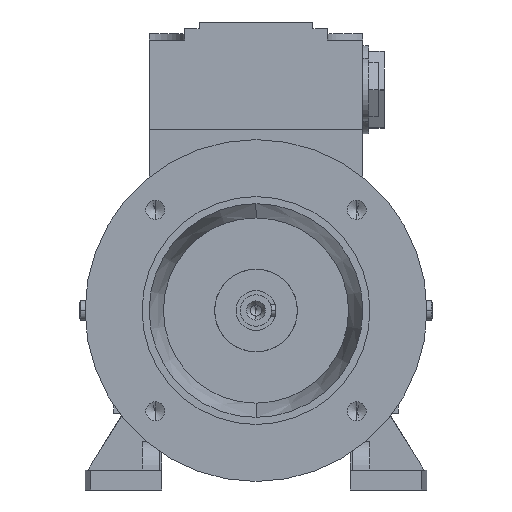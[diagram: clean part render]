
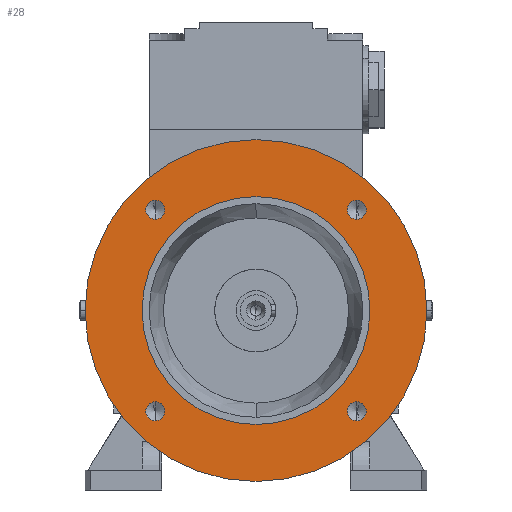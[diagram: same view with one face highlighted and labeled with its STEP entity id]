
A CAD part, left-side view. The second image highlights one B-rep face of the part: STEP entity #28.
In plain terms, the highlighted planar face has unit normal (-1, 0, 0).
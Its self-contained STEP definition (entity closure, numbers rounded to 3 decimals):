
#24 = VERTEX_POINT ( 'NONE', #2880 ) ;
#28 = ADVANCED_FACE ( 'NONE', ( #9648, #5331, #11328, #15392, #7186, #2507 ), #8231, .T. ) ;
#375 = VERTEX_POINT ( 'NONE', #4385 ) ;
#1293 = CARTESIAN_POINT ( 'NONE',  ( -29.5, 35.355, -38.68 ) ) ;
#1419 = ORIENTED_EDGE ( 'NONE', *, *, #18509, .T. ) ;
#1540 = DIRECTION ( 'NONE',  ( 0., 0., -1. ) ) ;
#1763 = CARTESIAN_POINT ( 'NONE',  ( -29.5, 0., 0. ) ) ;
#1888 = EDGE_LOOP ( 'NONE', ( #7016, #18415 ) ) ;
#2293 = CIRCLE ( 'NONE', #14023, 3.325 ) ;
#2507 = FACE_OUTER_BOUND ( 'NONE', #5605, .T. ) ;
#2535 = DIRECTION ( 'NONE',  ( 0., 0., -1. ) ) ;
#2880 = CARTESIAN_POINT ( 'NONE',  ( -29.5, 35.355, 32.03 ) ) ;
#2945 = DIRECTION ( 'NONE',  ( 0., 0., 1. ) ) ;
#3248 = CIRCLE ( 'NONE', #11662, 3.325 ) ;
#3599 = CIRCLE ( 'NONE', #11990, 3.325 ) ;
#3621 = VERTEX_POINT ( 'NONE', #10667 ) ;
#3817 = CIRCLE ( 'NONE', #12824, 3.325 ) ;
#4098 = DIRECTION ( 'NONE',  ( 0., 0., 1. ) ) ;
#4230 = DIRECTION ( 'NONE',  ( 1., 0., 0. ) ) ;
#4231 = ORIENTED_EDGE ( 'NONE', *, *, #15060, .F. ) ;
#4309 = CARTESIAN_POINT ( 'NONE',  ( -29.5, 35.355, 35.355 ) ) ;
#4385 = CARTESIAN_POINT ( 'NONE',  ( -29.5, -35.355, 32.03 ) ) ;
#4866 = EDGE_CURVE ( 'NONE', #375, #13575, #18267, .T. ) ;
#5002 = DIRECTION ( 'NONE',  ( 1., 0., 0. ) ) ;
#5022 = DIRECTION ( 'NONE',  ( 0., 0., -1. ) ) ;
#5111 = DIRECTION ( 'NONE',  ( 1., 0., 0. ) ) ;
#5331 = FACE_BOUND ( 'NONE', #1888, .T. ) ;
#5605 = EDGE_LOOP ( 'NONE', ( #12301, #4231 ) ) ;
#5966 = ORIENTED_EDGE ( 'NONE', *, *, #10847, .T. ) ;
#6108 = EDGE_CURVE ( 'NONE', #13575, #375, #2293, .T. ) ;
#6133 = CARTESIAN_POINT ( 'NONE',  ( -29.5, 0., 60. ) ) ;
#6140 = DIRECTION ( 'NONE',  ( 0., 0., -1. ) ) ;
#6213 = AXIS2_PLACEMENT_3D ( 'NONE', #4309, #8344, #2535 ) ;
#6268 = VERTEX_POINT ( 'NONE', #6133 ) ;
#6320 = CARTESIAN_POINT ( 'NONE',  ( -29.5, 0., 0. ) ) ;
#6366 = VERTEX_POINT ( 'NONE', #13550 ) ;
#6501 = DIRECTION ( 'NONE',  ( 0., 0., -1. ) ) ;
#6896 = CARTESIAN_POINT ( 'NONE',  ( -29.5, -35.355, 35.355 ) ) ;
#7016 = ORIENTED_EDGE ( 'NONE', *, *, #4866, .T. ) ;
#7186 = FACE_BOUND ( 'NONE', #17301, .T. ) ;
#7266 = DIRECTION ( 'NONE',  ( 1., 0., 0. ) ) ;
#7397 = VERTEX_POINT ( 'NONE', #11963 ) ;
#7521 = DIRECTION ( 'NONE',  ( 1., 0., 0. ) ) ;
#7545 = EDGE_CURVE ( 'NONE', #8167, #12836, #3817, .T. ) ;
#7599 = CARTESIAN_POINT ( 'NONE',  ( -29.5, 0., 40. ) ) ;
#8088 = AXIS2_PLACEMENT_3D ( 'NONE', #8420, #18214, #4098 ) ;
#8167 = VERTEX_POINT ( 'NONE', #1293 ) ;
#8231 = PLANE ( 'NONE',  #8088 ) ;
#8344 = DIRECTION ( 'NONE',  ( 1., 0., 0. ) ) ;
#8365 = CIRCLE ( 'NONE', #14976, 60. ) ;
#8420 = CARTESIAN_POINT ( 'NONE',  ( -29.5, 0., 50. ) ) ;
#8423 = CARTESIAN_POINT ( 'NONE',  ( -29.5, 0., 0. ) ) ;
#8444 = ORIENTED_EDGE ( 'NONE', *, *, #15023, .T. ) ;
#8698 = CARTESIAN_POINT ( 'NONE',  ( -29.5, 0., -60. ) ) ;
#9224 = CARTESIAN_POINT ( 'NONE',  ( -29.5, 35.355, -35.355 ) ) ;
#9339 = CARTESIAN_POINT ( 'NONE',  ( -29.5, -35.355, 35.355 ) ) ;
#9648 = FACE_BOUND ( 'NONE', #14514, .T. ) ;
#10014 = VERTEX_POINT ( 'NONE', #11511 ) ;
#10152 = CIRCLE ( 'NONE', #16176, 3.325 ) ;
#10635 = DIRECTION ( 'NONE',  ( 0., 0., 1. ) ) ;
#10667 = CARTESIAN_POINT ( 'NONE',  ( -29.5, 0., -40. ) ) ;
#10806 = EDGE_CURVE ( 'NONE', #7397, #10014, #3599, .T. ) ;
#10822 = DIRECTION ( 'NONE',  ( 1., 0., 0. ) ) ;
#10847 = EDGE_CURVE ( 'NONE', #10014, #7397, #14119, .T. ) ;
#11042 = EDGE_CURVE ( 'NONE', #14329, #3621, #12607, .T. ) ;
#11328 = FACE_BOUND ( 'NONE', #12044, .T. ) ;
#11511 = CARTESIAN_POINT ( 'NONE',  ( -29.5, -35.355, -38.68 ) ) ;
#11517 = DIRECTION ( 'NONE',  ( 0., 0., 1. ) ) ;
#11662 = AXIS2_PLACEMENT_3D ( 'NONE', #12155, #14724, #17634 ) ;
#11677 = ORIENTED_EDGE ( 'NONE', *, *, #11042, .T. ) ;
#11842 = CARTESIAN_POINT ( 'NONE',  ( -29.5, 35.355, -35.355 ) ) ;
#11963 = CARTESIAN_POINT ( 'NONE',  ( -29.5, -35.355, -32.03 ) ) ;
#11990 = AXIS2_PLACEMENT_3D ( 'NONE', #13274, #7266, #6140 ) ;
#12043 = ORIENTED_EDGE ( 'NONE', *, *, #7545, .T. ) ;
#12044 = EDGE_LOOP ( 'NONE', ( #5966, #15087 ) ) ;
#12149 = DIRECTION ( 'NONE',  ( 1., 0., 0. ) ) ;
#12155 = CARTESIAN_POINT ( 'NONE',  ( -29.5, 35.355, 35.355 ) ) ;
#12195 = CIRCLE ( 'NONE', #6213, 3.325 ) ;
#12301 = ORIENTED_EDGE ( 'NONE', *, *, #16695, .F. ) ;
#12330 = DIRECTION ( 'NONE',  ( 0., 0., -1. ) ) ;
#12538 = AXIS2_PLACEMENT_3D ( 'NONE', #9339, #12149, #5022 ) ;
#12607 = CIRCLE ( 'NONE', #15318, 40. ) ;
#12824 = AXIS2_PLACEMENT_3D ( 'NONE', #11842, #16090, #17594 ) ;
#12836 = VERTEX_POINT ( 'NONE', #18603 ) ;
#13156 = AXIS2_PLACEMENT_3D ( 'NONE', #6320, #10822, #10635 ) ;
#13274 = CARTESIAN_POINT ( 'NONE',  ( -29.5, -35.355, -35.355 ) ) ;
#13501 = AXIS2_PLACEMENT_3D ( 'NONE', #15071, #5111, #12330 ) ;
#13550 = CARTESIAN_POINT ( 'NONE',  ( -29.5, 35.355, 38.68 ) ) ;
#13575 = VERTEX_POINT ( 'NONE', #17298 ) ;
#13906 = ORIENTED_EDGE ( 'NONE', *, *, #15974, .T. ) ;
#14023 = AXIS2_PLACEMENT_3D ( 'NONE', #6896, #14328, #1540 ) ;
#14119 = CIRCLE ( 'NONE', #13501, 3.325 ) ;
#14328 = DIRECTION ( 'NONE',  ( 1., 0., 0. ) ) ;
#14329 = VERTEX_POINT ( 'NONE', #7599 ) ;
#14514 = EDGE_LOOP ( 'NONE', ( #11677, #13906 ) ) ;
#14588 = CARTESIAN_POINT ( 'NONE',  ( -29.5, 0., 0. ) ) ;
#14724 = DIRECTION ( 'NONE',  ( 1., 0., 0. ) ) ;
#14949 = CIRCLE ( 'NONE', #15895, 40. ) ;
#14976 = AXIS2_PLACEMENT_3D ( 'NONE', #1763, #4230, #15701 ) ;
#15023 = EDGE_CURVE ( 'NONE', #12836, #8167, #10152, .T. ) ;
#15060 = EDGE_CURVE ( 'NONE', #15975, #6268, #18569, .T. ) ;
#15071 = CARTESIAN_POINT ( 'NONE',  ( -29.5, -35.355, -35.355 ) ) ;
#15087 = ORIENTED_EDGE ( 'NONE', *, *, #10806, .T. ) ;
#15239 = ORIENTED_EDGE ( 'NONE', *, *, #17027, .T. ) ;
#15318 = AXIS2_PLACEMENT_3D ( 'NONE', #14588, #7521, #2945 ) ;
#15392 = FACE_BOUND ( 'NONE', #18581, .T. ) ;
#15583 = DIRECTION ( 'NONE',  ( 1., 0., 0. ) ) ;
#15701 = DIRECTION ( 'NONE',  ( 0., 0., 1. ) ) ;
#15895 = AXIS2_PLACEMENT_3D ( 'NONE', #8423, #15583, #11517 ) ;
#15974 = EDGE_CURVE ( 'NONE', #3621, #14329, #14949, .T. ) ;
#15975 = VERTEX_POINT ( 'NONE', #8698 ) ;
#16090 = DIRECTION ( 'NONE',  ( 1., 0., 0. ) ) ;
#16176 = AXIS2_PLACEMENT_3D ( 'NONE', #9224, #5002, #6501 ) ;
#16695 = EDGE_CURVE ( 'NONE', #6268, #15975, #8365, .T. ) ;
#17027 = EDGE_CURVE ( 'NONE', #6366, #24, #3248, .T. ) ;
#17298 = CARTESIAN_POINT ( 'NONE',  ( -29.5, -35.355, 38.68 ) ) ;
#17301 = EDGE_LOOP ( 'NONE', ( #1419, #15239 ) ) ;
#17594 = DIRECTION ( 'NONE',  ( 0., 0., -1. ) ) ;
#17634 = DIRECTION ( 'NONE',  ( 0., 0., -1. ) ) ;
#18214 = DIRECTION ( 'NONE',  ( -1., 0., 0. ) ) ;
#18267 = CIRCLE ( 'NONE', #12538, 3.325 ) ;
#18415 = ORIENTED_EDGE ( 'NONE', *, *, #6108, .T. ) ;
#18509 = EDGE_CURVE ( 'NONE', #24, #6366, #12195, .T. ) ;
#18569 = CIRCLE ( 'NONE', #13156, 60. ) ;
#18581 = EDGE_LOOP ( 'NONE', ( #12043, #8444 ) ) ;
#18603 = CARTESIAN_POINT ( 'NONE',  ( -29.5, 35.355, -32.03 ) ) ;
